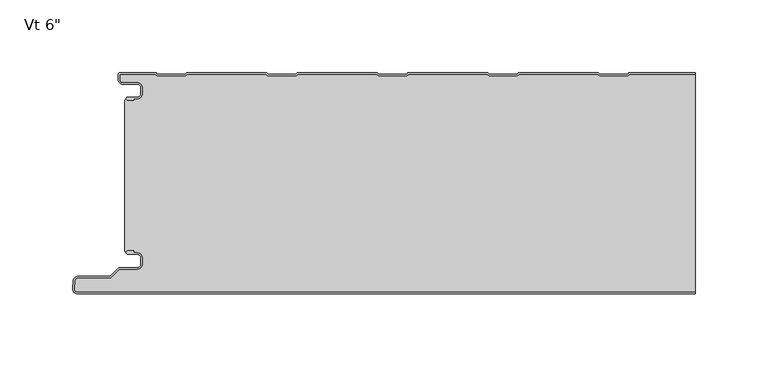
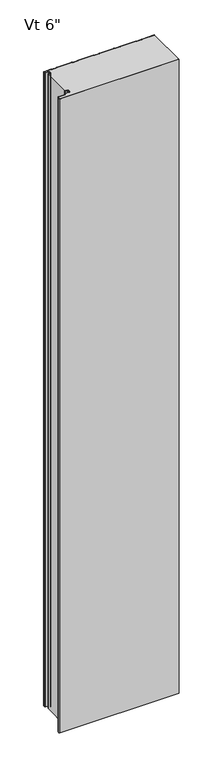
"""IFC4 building model written with IfcOpenShell, lengths in millimetres: plate geometry."""

from ifc_helpers import new_model, si_unit, point, frame, frame_2d, origin, origin_with_axes, place, context, project, spatial, polyline, circle_curve, trimmed, segment, composite_curve, outline, extrude, source, transform, mapped, element, save
from ifc_brep_helpers import plane_surface, cylinder_surface, revolved_surface, advanced_brep


def plate_fd4a2de5(model_context):
    return source(origin(), model_context, "Body", "SolidModel", [
        advanced_brep(
        [(-194.5686912, -17.001516, 2400.0), (-195.5686885, -18.0015192, 2400.0), (-194.5686912, -19.0015105, 2400.0), (-190.5684875, -19.0015105, 2400.0), (-190.5684876, -18.001516, 2400.0), (-187.8762777, -18.001516, 2400.0), (-184.5762821, -14.7015203, 2400.0), (-184.5762821, -10.3015291, 2400.0), (-187.8762776, -7.0015336, 2400.0), (-198.2962565, -7.0015336, 2400.0), (-200.0662507, -5.2315394, 2400.0), (-200.0662507, -0.9999917, 2400.0), (-175.5659741, -0.9999917, 2400.0), (-174.1803314, -2.2002307, 2400.0), (-154.8051651, -2.2002307, 2400.0), (-153.4195322, -1.0, 2400.0), (-99.3661168, -0.9999999, 2400.0), (-97.9804838, -2.2002306, 2400.0), (-78.6053175, -2.2002306, 2400.0), (-77.2196846, -0.9999999, 2400.0), (-23.1662692, -0.9999998, 2400.0), (-21.7806362, -2.2002305, 2400.0), (-2.4054699, -2.2002304, 2400.0), (-1.019837, -0.9999997, 2400.0), (53.0335784, -0.9999996, 2400.0), (54.4192114, -2.2002303, 2400.0), (73.7943777, -2.2002303, 2400.0), (75.1800106, -0.9999996, 2400.0), (129.233426, -0.9999995, 2400.0), (130.619059, -2.2002302, 2400.0), (149.9942253, -2.2002302, 2400.0), (151.3798582, -0.9999995, 2400.0), (196.5999996, -0.9999994, 2400.0), (196.5999996, 6e-07, 2400.0), (151.5290094, 5e-07, 2400.0), (150.6123925, -0.341788, 2400.0), (149.6213448, -1.2002302, 2400.0), (130.9919394, -1.2002302, 2400.0), (130.0008917, -0.341788, 2400.0), (129.0842749, 5e-07, 2400.0), (75.3291618, 4e-07, 2400.0), (74.4125449, -0.3417881, 2400.0), (73.4214972, -1.2002303, 2400.0), (54.7920918, -1.2002303, 2400.0), (53.8010441, -0.3417881, 2400.0), (52.8844273, 4e-07, 2400.0), (-0.8706858, 3e-07, 2400.0), (-1.7873027, -0.3417882, 2400.0), (-2.7783504, -1.2002304, 2400.0), (-21.4077558, -1.2002305, 2400.0), (-22.3988035, -0.3417883, 2400.0), (-23.3154203, 2e-07, 2400.0), (-77.0705334, 1e-07, 2400.0), (-77.9871503, -0.3417884, 2400.0), (-78.978198, -1.2002306, 2400.0), (-97.6076034, -1.2002306, 2400.0), (-98.5986511, -0.3417884, 2400.0), (-99.5152679, 1e-07, 2400.0), (-153.270381, 0.0, 2400.0), (-154.1869979, -0.3417885, 2400.0), (-155.1780456, -1.2002307, 2400.0), (-173.807451, -1.2002307, 2400.0), (-174.7984987, -0.3417885, 2400.0), (-175.7152069, 0.0, 2400.0), (-199.6662545, 8.3e-06, 2400.0), (-201.0662507, -1.3999879, 2400.0), (-201.0662507, -5.2315394, 2400.0), (-198.2962565, -8.0015336, 2400.0), (-187.8762776, -8.0015336, 2400.0), (-185.5762821, -10.3015291, 2400.0), (-185.5762821, -14.7015203, 2400.0), (-187.8762777, -17.001516, 2400.0), (-194.5686912, -17.001516, 0.0), (-187.8762777, -17.001516, 0.0), (-185.5762821, -14.7015203, 0.0), (-185.5762821, -10.3015291, 0.0), (-187.8762776, -8.0015336, 0.0), (-198.2962565, -8.0015336, 0.0), (-201.0662507, -5.2315394, 0.0), (-201.0662507, -1.3999879, 0.0), (-199.6662545, 8.3e-06, 0.0), (-175.7151155, 8.3e-06, 0.0), (-174.7984987, -0.3417885, 0.0), (-173.807451, -1.2002307, 0.0), (-155.1780456, -1.2002307, 0.0), (-154.1869979, -0.3417885, 0.0), (-153.270381, 0.0, 0.0), (-99.5152679, 1e-07, 0.0), (-98.5986511, -0.3417884, 0.0), (-97.6076034, -1.2002306, 0.0), (-78.978198, -1.2002306, 0.0), (-77.9871503, -0.3417884, 0.0), (-77.0705334, 1e-07, 0.0), (-23.3154203, 2e-07, 0.0), (-22.3988035, -0.3417883, 0.0), (-21.4077558, -1.2002305, 0.0), (-2.7783504, -1.2002304, 0.0), (-1.7873027, -0.3417882, 0.0), (-0.8706858, 3e-07, 0.0), (52.8844273, 4e-07, 0.0), (53.8010441, -0.3417881, 0.0), (54.7920918, -1.2002303, 0.0), (73.4214972, -1.2002303, 0.0), (74.4125449, -0.3417881, 0.0), (75.3291618, 4e-07, 0.0), (129.0842749, 5e-07, 0.0), (130.0008917, -0.341788, 0.0), (130.9919394, -1.2002302, 0.0), (149.6213448, -1.2002302, 0.0), (150.6123925, -0.341788, 0.0), (151.5290094, 5e-07, 0.0), (196.5999996, 6e-07, 0.0), (196.5999996, -0.9999994, 0.0), (151.3798582, -0.9999995, 0.0), (149.9942253, -2.2002302, 0.0), (130.619059, -2.2002302, 0.0), (129.233426, -0.9999995, 0.0), (75.1800106, -0.9999996, 0.0), (73.7943777, -2.2002303, 0.0), (54.4192114, -2.2002303, 0.0), (53.0335784, -0.9999996, 0.0), (-1.019837, -0.9999997, 0.0), (-2.4054699, -2.2002304, 0.0), (-21.7806362, -2.2002305, 0.0), (-23.1662692, -0.9999998, 0.0), (-77.2196846, -0.9999999, 0.0), (-78.6053175, -2.2002306, 0.0), (-97.9804838, -2.2002306, 0.0), (-99.3661168, -0.9999999, 0.0), (-153.4195322, -1.0, 0.0), (-154.8051651, -2.2002307, 0.0), (-174.1803314, -2.2002307, 0.0), (-175.5659741, -0.9999917, 0.0), (-200.0662507, -0.9999917, 0.0), (-200.0662507, -5.2315394, 0.0), (-198.2962565, -7.0015336, 0.0), (-187.8762776, -7.0015336, 0.0), (-184.5762821, -10.3015291, 0.0), (-184.5762821, -14.7015203, 0.0), (-187.8762777, -18.001516, 0.0), (-190.5684876, -18.001516, 0.0), (-190.5684875, -19.0015105, 0.0), (-194.5686912, -19.0015105, 0.0), (-195.5686884, -18.0015193, 0.0)],
        [
            (0, 1, circle_curve(frame((-194.5686912, -18.0015133, 2400.0), z_axis=(0.0, 0.0, 1.0), x_axis=(1.0, 1.7886125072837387e-09, 0.0)), 0.9999973)),
            (1, 2, circle_curve(frame((-194.5686912, -18.0015133, 2400.0), z_axis=(0.0, 0.0, 1.0), x_axis=(1.0, 1.7886125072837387e-09, 0.0)), 0.9999972)),
            (2, 3),
            (3, 4),
            (4, 5),
            (5, 6, circle_curve(frame((-187.8762778, -14.7015203, 2400.0), z_axis=(0.0, 0.0, 1.0), x_axis=(1.0, 1.7886125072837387e-09, 0.0)), 3.2999957)),
            (6, 7),
            (7, 8, circle_curve(frame((-187.8762776, -10.3015291, 2400.0), z_axis=(0.0, 0.0, 1.0), x_axis=(1.0, 1.7886125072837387e-09, 0.0)), 3.2999955)),
            (8, 9),
            (9, 10, circle_curve(frame((-198.2962565, -5.2315394, 2400.0), z_axis=(0.0, 0.0, -1.0), x_axis=(1.0, 1.7886125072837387e-09, 0.0)), 1.7699942)),
            (10, 11),
            (11, 12),
            (12, 13),
            (13, 14),
            (14, 15),
            (15, 16),
            (16, 17),
            (17, 18),
            (18, 19),
            (19, 20),
            (20, 21),
            (21, 22),
            (22, 23),
            (23, 24),
            (24, 25),
            (25, 26),
            (26, 27),
            (27, 28),
            (28, 29),
            (29, 30),
            (30, 31),
            (31, 32),
            (32, 33),
            (33, 34),
            (34, 35, circle_curve(frame((151.5290094, -1.3999967, 2400.0), z_axis=(0.0, 0.0, 1.0), x_axis=(1.0, 1.7886125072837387e-09, 0.0)), 1.3999972)),
            (35, 36),
            (36, 37),
            (37, 38),
            (38, 39, circle_curve(frame((129.0842749, -1.3999967, 2400.0), z_axis=(0.0, 0.0, 1.0), x_axis=(1.0, 1.7886125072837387e-09, 0.0)), 1.3999972)),
            (39, 40),
            (40, 41, circle_curve(frame((75.3291618, -1.3999968, 2400.0), z_axis=(0.0, 0.0, 1.0), x_axis=(1.0, 1.7886125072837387e-09, 0.0)), 1.3999972)),
            (41, 42),
            (42, 43),
            (43, 44),
            (44, 45, circle_curve(frame((52.8844273, -1.3999968, 2400.0), z_axis=(0.0, 0.0, 1.0), x_axis=(1.0, 1.7886125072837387e-09, 0.0)), 1.3999972)),
            (45, 46),
            (46, 47, circle_curve(frame((-0.8706858, -1.3999969, 2400.0), z_axis=(0.0, 0.0, 1.0), x_axis=(1.0, 1.7886125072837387e-09, 0.0)), 1.3999972)),
            (47, 48),
            (48, 49),
            (49, 50),
            (50, 51, circle_curve(frame((-23.3154203, -1.399997, 2400.0), z_axis=(0.0, 0.0, 1.0), x_axis=(1.0, 1.7886125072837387e-09, 0.0)), 1.3999972)),
            (51, 52),
            (52, 53, circle_curve(frame((-77.0705334, -1.3999971, 2400.0), z_axis=(0.0, 0.0, 1.0), x_axis=(1.0, 1.7886125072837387e-09, 0.0)), 1.3999972)),
            (53, 54),
            (54, 55),
            (55, 56),
            (56, 57, circle_curve(frame((-99.5152679, -1.3999971, 2400.0), z_axis=(0.0, 0.0, 1.0), x_axis=(1.0, 1.7886125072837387e-09, 0.0)), 1.3999972)),
            (57, 58),
            (58, 59, circle_curve(frame((-153.270381, -1.3999972, 2400.0), z_axis=(0.0, 0.0, 1.0), x_axis=(1.0, 1.7886125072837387e-09, 0.0)), 1.3999972)),
            (59, 60),
            (60, 61),
            (61, 62),
            (62, 63, circle_curve(frame((-175.7151155, -1.3999972, 2400.0), z_axis=(0.0, 0.0, 1.0), x_axis=(1.0, 1.7886125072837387e-09, 0.0)), 1.3999972)),
            (63, 64),
            (64, 65, circle_curve(frame((-199.6662545, -1.3999879, 2400.0), z_axis=(0.0, 0.0, 1.0), x_axis=(1.0, 1.7886125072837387e-09, 0.0)), 1.3999962)),
            (65, 66),
            (66, 67, circle_curve(frame((-198.2962565, -5.2315394, 2400.0), z_axis=(0.0, 0.0, 1.0), x_axis=(1.0, 1.7886125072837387e-09, 0.0)), 2.7699942)),
            (67, 68),
            (68, 69, circle_curve(frame((-187.8762776, -10.3015291, 2400.0), z_axis=(0.0, 0.0, -1.0), x_axis=(1.0, 1.7886125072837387e-09, 0.0)), 2.2999955)),
            (69, 70),
            (70, 71, circle_curve(frame((-187.8762778, -14.7015203, 2400.0), z_axis=(0.0, 0.0, -1.0), x_axis=(1.0, 1.7886125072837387e-09, 0.0)), 2.2999957)),
            (71, 0),
            (72, 73),
            (73, 74, circle_curve(frame((-187.8762778, -14.7015203, 0.0), z_axis=(0.0, 0.0, 1.0), x_axis=(1.0, 1.7886125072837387e-09, 0.0)), 2.2999957)),
            (74, 75),
            (75, 76, circle_curve(frame((-187.8762776, -10.3015291, 0.0), z_axis=(0.0, 0.0, 1.0), x_axis=(1.0, 1.7886125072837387e-09, 0.0)), 2.2999955)),
            (76, 77),
            (77, 78, circle_curve(frame((-198.2962565, -5.2315394, 0.0), z_axis=(0.0, 0.0, -1.0), x_axis=(1.0, 1.7886125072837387e-09, 0.0)), 2.7699942)),
            (78, 79),
            (79, 80, circle_curve(frame((-199.6662545, -1.3999879, 0.0), z_axis=(0.0, 0.0, -1.0), x_axis=(1.0, 1.7886125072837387e-09, 0.0)), 1.3999962)),
            (80, 81),
            (81, 82, circle_curve(frame((-175.7151155, -1.3999972, 0.0), z_axis=(0.0, 0.0, -1.0), x_axis=(1.0, 1.7886125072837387e-09, 0.0)), 1.3999972)),
            (82, 83),
            (83, 84),
            (84, 85),
            (85, 86, circle_curve(frame((-153.270381, -1.3999972, 0.0), z_axis=(0.0, 0.0, -1.0), x_axis=(1.0, 1.7886125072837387e-09, 0.0)), 1.3999972)),
            (86, 87),
            (87, 88, circle_curve(frame((-99.5152679, -1.3999971, 0.0), z_axis=(0.0, 0.0, -1.0), x_axis=(1.0, 1.7886125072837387e-09, 0.0)), 1.3999972)),
            (88, 89),
            (89, 90),
            (90, 91),
            (91, 92, circle_curve(frame((-77.0705334, -1.3999971, 0.0), z_axis=(0.0, 0.0, -1.0), x_axis=(1.0, 1.7886125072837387e-09, 0.0)), 1.3999972)),
            (92, 93),
            (93, 94, circle_curve(frame((-23.3154203, -1.399997, 0.0), z_axis=(0.0, 0.0, -1.0), x_axis=(1.0, 1.7886125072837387e-09, 0.0)), 1.3999972)),
            (94, 95),
            (95, 96),
            (96, 97),
            (97, 98, circle_curve(frame((-0.8706858, -1.3999969, 0.0), z_axis=(0.0, 0.0, -1.0), x_axis=(1.0, 1.7886125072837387e-09, 0.0)), 1.3999972)),
            (98, 99),
            (99, 100, circle_curve(frame((52.8844273, -1.3999968, 0.0), z_axis=(0.0, 0.0, -1.0), x_axis=(1.0, 1.7886125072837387e-09, 0.0)), 1.3999972)),
            (100, 101),
            (101, 102),
            (102, 103),
            (103, 104, circle_curve(frame((75.3291618, -1.3999968, 0.0), z_axis=(0.0, 0.0, -1.0), x_axis=(1.0, 1.7886125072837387e-09, 0.0)), 1.3999972)),
            (104, 105),
            (105, 106, circle_curve(frame((129.0842749, -1.3999967, 0.0), z_axis=(0.0, 0.0, -1.0), x_axis=(1.0, 1.7886125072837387e-09, 0.0)), 1.3999972)),
            (106, 107),
            (107, 108),
            (108, 109),
            (109, 110, circle_curve(frame((151.5290094, -1.3999967, 0.0), z_axis=(0.0, 0.0, -1.0), x_axis=(1.0, 1.7886125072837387e-09, 0.0)), 1.3999972)),
            (110, 111),
            (111, 112),
            (112, 113),
            (113, 114),
            (114, 115),
            (115, 116),
            (116, 117),
            (117, 118),
            (118, 119),
            (119, 120),
            (120, 121),
            (121, 122),
            (122, 123),
            (123, 124),
            (124, 125),
            (125, 126),
            (126, 127),
            (127, 128),
            (128, 129),
            (129, 130),
            (130, 131),
            (131, 132),
            (132, 133),
            (133, 134),
            (134, 135, circle_curve(frame((-198.2962565, -5.2315394, 0.0), z_axis=(0.0, 0.0, 1.0), x_axis=(1.0, 1.7886125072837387e-09, 0.0)), 1.7699942)),
            (135, 136),
            (136, 137, circle_curve(frame((-187.8762776, -10.3015291, 0.0), z_axis=(0.0, 0.0, -1.0), x_axis=(1.0, 1.7886125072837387e-09, 0.0)), 3.2999955)),
            (137, 138),
            (138, 139, circle_curve(frame((-187.8762778, -14.7015203, 0.0), z_axis=(0.0, 0.0, -1.0), x_axis=(1.0, 1.7886125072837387e-09, 0.0)), 3.2999957)),
            (139, 140),
            (140, 141),
            (141, 142),
            (142, 143, circle_curve(frame((-194.5686912, -18.0015133, 0.0), z_axis=(0.0, 0.0, -1.0), x_axis=(1.0, 1.7886125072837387e-09, 0.0)), 0.9999972)),
            (143, 72, circle_curve(frame((-194.5686912, -18.0015133, 0.0), z_axis=(0.0, 0.0, -1.0), x_axis=(1.0, 1.7886125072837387e-09, 0.0)), 0.9999973)),
            (32, 112),
            (111, 33),
            (71, 73),
            (72, 0),
            (70, 74),
            (69, 75),
            (68, 76),
            (67, 77),
            (66, 78),
            (65, 79),
            (64, 80),
            (63, 81),
            (62, 82),
            (61, 83),
            (60, 84),
            (59, 85),
            (58, 86),
            (57, 87),
            (56, 88),
            (55, 89),
            (54, 90),
            (53, 91),
            (52, 92),
            (51, 93),
            (50, 94),
            (49, 95),
            (48, 96),
            (47, 97),
            (46, 98),
            (45, 99),
            (44, 100),
            (43, 101),
            (42, 102),
            (41, 103),
            (40, 104),
            (39, 105),
            (38, 106),
            (37, 107),
            (36, 108),
            (35, 109),
            (34, 110),
            (31, 113),
            (30, 114),
            (29, 115),
            (28, 116),
            (27, 117),
            (26, 118),
            (25, 119),
            (24, 120),
            (23, 121),
            (22, 122),
            (21, 123),
            (20, 124),
            (19, 125),
            (18, 126),
            (17, 127),
            (16, 128),
            (15, 129),
            (14, 130),
            (13, 131),
            (12, 132),
            (11, 133),
            (10, 134),
            (9, 135),
            (8, 136),
            (7, 137),
            (6, 138),
            (5, 139),
            (4, 140),
            (3, 141),
            (2, 142),
            (1, 143),
        ],
        [
            plane_surface(frame((336.7999999, 9e-07, 2400.0), z_axis=(0.0, 0.0, 1.0), x_axis=(-1.7886125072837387e-09, 1.0, 0.0))),
            plane_surface(frame((336.7999999, 9e-07, 0.0), z_axis=(0.0, 0.0, -1.0), x_axis=(-1.7886125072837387e-09, 1.0, 0.0))),
            plane_surface(frame((196.5999999, -162.3999994, 2400.0), z_axis=(1.0, 1.7886125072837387e-09, 0.0), x_axis=(0.0, 0.0, -1.0))),
            plane_surface(frame((-194.5686912, -17.001516, 2400.0), z_axis=(-1.7886125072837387e-09, 1.0, 0.0), x_axis=(0.0, 0.0, -1.0))),
            revolved_surface(polyline([(-185.5762821, -14.7015202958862, 0.0), (-185.5762821, -14.7015202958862, 2400.0)]), (-187.8762778, -14.7015203, 2400.0), (0.0, 0.0, -1.0)),
            plane_surface(frame((-185.5762821, -14.7015203, 2400.0), z_axis=(-1.0, -1.7886125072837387e-09, 0.0), x_axis=(0.0, 0.0, -1.0))),
            revolved_surface(polyline([(-185.57628210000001, -10.301529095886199, 0.0), (-185.57628210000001, -10.301529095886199, 2400.0)]), (-187.8762776, -10.3015291, 2400.0), (0.0, 0.0, -1.0)),
            plane_surface(frame((-187.8762776, -8.0015336, 2400.0), z_axis=(1.7886125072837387e-09, -1.0, 0.0), x_axis=(0.0, 0.0, -1.0))),
            cylinder_surface(frame((-198.2962565, -5.2315394, 2400.0), z_axis=(0.0, 0.0, 1.0), x_axis=(1.0, 1.7886125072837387e-09, 0.0)), 2.7699942),
            plane_surface(frame((-201.0662507, -5.2315394, 2400.0), z_axis=(-1.0, -1.7886125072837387e-09, 0.0), x_axis=(0.0, 0.0, -1.0))),
            cylinder_surface(frame((-199.6662545, -1.3999879, 2400.0), z_axis=(0.0, 0.0, 1.0), x_axis=(1.0, 1.7886125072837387e-09, 0.0)), 1.3999962),
            plane_surface(frame((-199.6662545, 8.3e-06, 2400.0), z_axis=(-1.7886125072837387e-09, 1.0, 0.0), x_axis=(0.0, 0.0, -1.0))),
            cylinder_surface(frame((-175.7151155, -1.3999972, 2400.0), z_axis=(0.0, 0.0, 1.0), x_axis=(1.0, 1.7886125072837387e-09, 0.0)), 1.3999972),
            plane_surface(frame((-174.7984987, -0.3417885, 2400.0), z_axis=(0.6547276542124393, 0.755864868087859, 0.0), x_axis=(0.0, 0.0, -1.0))),
            plane_surface(frame((-164.4927483, -1.2002307, 2400.0), z_axis=(-1.7886125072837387e-09, 1.0, 0.0), x_axis=(0.0, 0.0, -1.0))),
            plane_surface(frame((-155.1780456, -1.2002307, 2400.0), z_axis=(-0.6547276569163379, 0.755864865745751, 0.0), x_axis=(0.0, 0.0, -1.0))),
            cylinder_surface(frame((-153.270381, -1.3999972, 2400.0), z_axis=(0.0, 0.0, 1.0), x_axis=(1.0, 1.7886125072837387e-09, 0.0)), 1.3999972),
            plane_surface(frame((-153.270381, 0.0, 2400.0), z_axis=(-1.7886074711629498e-09, 1.0, 0.0), x_axis=(0.0, 0.0, -1.0))),
            cylinder_surface(frame((-99.5152679, -1.3999971, 2400.0), z_axis=(0.0, 0.0, 1.0), x_axis=(1.0, 1.7886125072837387e-09, 0.0)), 1.3999972),
            plane_surface(frame((-98.5986511, -0.3417884, 2400.0), z_axis=(0.6547276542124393, 0.755864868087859, 0.0), x_axis=(0.0, 0.0, -1.0))),
            plane_surface(frame((-88.2929007, -1.2002306, 2400.0), z_axis=(-1.7886125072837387e-09, 1.0, 0.0), x_axis=(0.0, 0.0, -1.0))),
            plane_surface(frame((-78.978198, -1.2002306, 2400.0), z_axis=(-0.6547276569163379, 0.755864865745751, 0.0), x_axis=(0.0, 0.0, -1.0))),
            cylinder_surface(frame((-77.0705334, -1.3999971, 2400.0), z_axis=(0.0, 0.0, 1.0), x_axis=(1.0, 1.7886125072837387e-09, 0.0)), 1.3999972),
            plane_surface(frame((-77.0705334, 1e-07, 2400.0), z_axis=(-1.7886074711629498e-09, 1.0, 0.0), x_axis=(0.0, 0.0, -1.0))),
            cylinder_surface(frame((-23.3154203, -1.399997, 2400.0), z_axis=(0.0, 0.0, 1.0), x_axis=(1.0, 1.7886125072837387e-09, 0.0)), 1.3999972),
            plane_surface(frame((-22.3988035, -0.3417883, 2400.0), z_axis=(0.6547276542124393, 0.755864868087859, 0.0), x_axis=(0.0, 0.0, -1.0))),
            plane_surface(frame((-12.0930531, -1.2002305, 2400.0), z_axis=(-1.7886125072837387e-09, 1.0, 0.0), x_axis=(0.0, 0.0, -1.0))),
            plane_surface(frame((-2.7783504, -1.2002304, 2400.0), z_axis=(-0.6547276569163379, 0.755864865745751, 0.0), x_axis=(0.0, 0.0, -1.0))),
            cylinder_surface(frame((-0.8706858, -1.3999969, 2400.0), z_axis=(0.0, 0.0, 1.0), x_axis=(1.0, 1.7886125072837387e-09, 0.0)), 1.3999972),
            plane_surface(frame((-0.8706858, 3e-07, 2400.0), z_axis=(-1.7886074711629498e-09, 1.0, 0.0), x_axis=(0.0, 0.0, -1.0))),
            cylinder_surface(frame((52.8844273, -1.3999968, 2400.0), z_axis=(0.0, 0.0, 1.0), x_axis=(1.0, 1.7886125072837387e-09, 0.0)), 1.3999972),
            plane_surface(frame((53.8010441, -0.3417881, 2400.0), z_axis=(0.6547276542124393, 0.755864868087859, 0.0), x_axis=(0.0, 0.0, -1.0))),
            plane_surface(frame((64.1067945, -1.2002303, 2400.0), z_axis=(-1.7886125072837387e-09, 1.0, 0.0), x_axis=(0.0, 0.0, -1.0))),
            plane_surface(frame((73.4214972, -1.2002303, 2400.0), z_axis=(-0.6547276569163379, 0.755864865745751, 0.0), x_axis=(0.0, 0.0, -1.0))),
            cylinder_surface(frame((75.3291618, -1.3999968, 2400.0), z_axis=(0.0, 0.0, 1.0), x_axis=(1.0, 1.7886125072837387e-09, 0.0)), 1.3999972),
            plane_surface(frame((75.3291618, 4e-07, 2400.0), z_axis=(-1.7886074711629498e-09, 1.0, 0.0), x_axis=(0.0, 0.0, -1.0))),
            cylinder_surface(frame((129.0842749, -1.3999967, 2400.0), z_axis=(0.0, 0.0, 1.0), x_axis=(1.0, 1.7886125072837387e-09, 0.0)), 1.3999972),
            plane_surface(frame((130.0008917, -0.341788, 2400.0), z_axis=(0.6547276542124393, 0.755864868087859, 0.0), x_axis=(0.0, 0.0, -1.0))),
            plane_surface(frame((140.3066421, -1.2002302, 2400.0), z_axis=(-1.7886125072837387e-09, 1.0, 0.0), x_axis=(0.0, 0.0, -1.0))),
            plane_surface(frame((149.6213448, -1.2002302, 2400.0), z_axis=(-0.6547276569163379, 0.755864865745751, 0.0), x_axis=(0.0, 0.0, -1.0))),
            cylinder_surface(frame((151.5290094, -1.3999967, 2400.0), z_axis=(0.0, 0.0, 1.0), x_axis=(1.0, 1.7886125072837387e-09, 0.0)), 1.3999972),
            plane_surface(frame((151.5290094, 5e-07, 2400.0), z_axis=(-1.7886074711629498e-09, 1.0, 0.0), x_axis=(0.0, 0.0, -1.0))),
            plane_surface(frame((205.4332736, -0.9999994, 2400.0), z_axis=(1.7886074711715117e-09, -1.0, 0.0), x_axis=(0.0, 0.0, -1.0))),
            plane_surface(frame((151.3798582, -0.9999995, 2400.0), z_axis=(0.6547276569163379, -0.755864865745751, 0.0), x_axis=(0.0, 0.0, -1.0))),
            plane_surface(frame((149.9942253, -2.2002302, 2400.0), z_axis=(1.7886125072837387e-09, -1.0, 0.0), x_axis=(0.0, 0.0, -1.0))),
            plane_surface(frame((130.619059, -2.2002302, 2400.0), z_axis=(-0.6547276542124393, -0.755864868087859, 0.0), x_axis=(0.0, 0.0, -1.0))),
            plane_surface(frame((129.233426, -0.9999995, 2400.0), z_axis=(1.7886074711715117e-09, -1.0, 0.0), x_axis=(0.0, 0.0, -1.0))),
            plane_surface(frame((75.1800106, -0.9999996, 2400.0), z_axis=(0.6547276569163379, -0.755864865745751, 0.0), x_axis=(0.0, 0.0, -1.0))),
            plane_surface(frame((73.7943777, -2.2002303, 2400.0), z_axis=(1.7886125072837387e-09, -1.0, 0.0), x_axis=(0.0, 0.0, -1.0))),
            plane_surface(frame((54.4192114, -2.2002303, 2400.0), z_axis=(-0.6547276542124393, -0.755864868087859, 0.0), x_axis=(0.0, 0.0, -1.0))),
            plane_surface(frame((53.0335784, -0.9999996, 2400.0), z_axis=(1.7886074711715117e-09, -1.0, 0.0), x_axis=(0.0, 0.0, -1.0))),
            plane_surface(frame((-1.019837, -0.9999997, 2400.0), z_axis=(0.6547276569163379, -0.755864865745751, 0.0), x_axis=(0.0, 0.0, -1.0))),
            plane_surface(frame((-2.4054699, -2.2002304, 2400.0), z_axis=(1.7886125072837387e-09, -1.0, 0.0), x_axis=(0.0, 0.0, -1.0))),
            plane_surface(frame((-21.7806362, -2.2002305, 2400.0), z_axis=(-0.6547276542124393, -0.755864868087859, 0.0), x_axis=(0.0, 0.0, -1.0))),
            plane_surface(frame((-23.1662692, -0.9999998, 2400.0), z_axis=(1.7886074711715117e-09, -1.0, 0.0), x_axis=(0.0, 0.0, -1.0))),
            plane_surface(frame((-77.2196846, -0.9999999, 2400.0), z_axis=(0.6547276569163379, -0.755864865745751, 0.0), x_axis=(0.0, 0.0, -1.0))),
            plane_surface(frame((-78.6053175, -2.2002306, 2400.0), z_axis=(1.7886125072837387e-09, -1.0, 0.0), x_axis=(0.0, 0.0, -1.0))),
            plane_surface(frame((-97.9804838, -2.2002306, 2400.0), z_axis=(-0.6547276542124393, -0.755864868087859, 0.0), x_axis=(0.0, 0.0, -1.0))),
            plane_surface(frame((-99.3661168, -0.9999999, 2400.0), z_axis=(1.7886074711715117e-09, -1.0, 0.0), x_axis=(0.0, 0.0, -1.0))),
            plane_surface(frame((-153.4195322, -1.0, 2400.0), z_axis=(0.6547276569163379, -0.755864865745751, 0.0), x_axis=(0.0, 0.0, -1.0))),
            plane_surface(frame((-154.8051651, -2.2002307, 2400.0), z_axis=(1.7886125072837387e-09, -1.0, 0.0), x_axis=(0.0, 0.0, -1.0))),
            plane_surface(frame((-174.1803314, -2.2002307, 2400.0), z_axis=(-0.6547276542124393, -0.755864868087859, 0.0), x_axis=(0.0, 0.0, -1.0))),
            plane_surface(frame((-175.5659741, -0.9999917, 2400.0), z_axis=(1.7886125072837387e-09, -1.0, 0.0), x_axis=(0.0, 0.0, -1.0))),
            plane_surface(frame((-200.0662507, -0.9999917, 2400.0), z_axis=(1.0, 1.7886125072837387e-09, 0.0), x_axis=(0.0, 0.0, -1.0))),
            revolved_surface(polyline([(-196.52626229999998, -5.231539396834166, 0.0), (-196.52626229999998, -5.231539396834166, 2400.0)]), (-198.2962565, -5.2315394, 2400.0), (0.0, 0.0, -1.0)),
            plane_surface(frame((-198.2962565, -7.0015336, 2400.0), z_axis=(-1.7886125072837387e-09, 1.0, 0.0), x_axis=(0.0, 0.0, -1.0))),
            cylinder_surface(frame((-187.8762776, -10.3015291, 2400.0), z_axis=(0.0, 0.0, 1.0), x_axis=(1.0, 1.7886125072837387e-09, 0.0)), 3.2999955),
            plane_surface(frame((-184.5762821, -10.3015291, 2400.0), z_axis=(1.0, 1.7886125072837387e-09, 0.0), x_axis=(0.0, 0.0, -1.0))),
            cylinder_surface(frame((-187.8762778, -14.7015203, 2400.0), z_axis=(0.0, 0.0, 1.0), x_axis=(1.0, 1.7886125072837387e-09, 0.0)), 3.2999957),
            plane_surface(frame((-187.8762777, -18.001516, 2400.0), z_axis=(1.7886125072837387e-09, -1.0, 0.0), x_axis=(0.0, 0.0, -1.0))),
            plane_surface(frame((-190.5684876, -18.001516, 2400.0), z_axis=(1.0, 1.7886125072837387e-09, 0.0), x_axis=(0.0, 0.0, -1.0))),
            plane_surface(frame((-190.5684875, -19.0015105, 2400.0), z_axis=(1.7886125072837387e-09, -1.0, 0.0), x_axis=(0.0, 0.0, -1.0))),
            cylinder_surface(frame((-194.5686912, -18.0015133, 2400.0), z_axis=(0.0, 0.0, 1.0), x_axis=(1.0, 1.7886125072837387e-09, 0.0)), 0.9999972),
            cylinder_surface(frame((-194.5686912, -18.0015133, 2400.0), z_axis=(0.0, 0.0, 1.0), x_axis=(1.0, 1.7886125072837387e-09, 0.0)), 0.9999973),
        ],
        [
            (0, [[1, 2, 3, 4, 5, 6, 7, 8, 9, 10, 11, 12, 13, 14, 15, 16, 17, 18, 19, 20, 21, 22, 23, 24, 25, 26, 27, 28, 29, 30, 31, 32, 33, 34, 35, 36, 37, 38, 39, 40, 41, 42, 43, 44, 45, 46, 47, 48, 49, 50, 51, 52, 53, 54, 55, 56, 57, 58, 59, 60, 61, 62, 63, 64, 65, 66, 67, 68, 69, 70, 71, 72]]),
            (1, [[73, 74, 75, 76, 77, 78, 79, 80, 81, 82, 83, 84, 85, 86, 87, 88, 89, 90, 91, 92, 93, 94, 95, 96, 97, 98, 99, 100, 101, 102, 103, 104, 105, 106, 107, 108, 109, 110, 111, 112, 113, 114, 115, 116, 117, 118, 119, 120, 121, 122, 123, 124, 125, 126, 127, 128, 129, 130, 131, 132, 133, 134, 135, 136, 137, 138, 139, 140, 141, 142, 143, 144]]),
            (2, [[145, -112, 146, -33]]),
            (3, [[147, -73, 148, -72]]),
            (4, [[149, -74, -147, -71]]),
            (5, [[150, -75, -149, -70]]),
            (6, [[151, -76, -150, -69]]),
            (7, [[152, -77, -151, -68]]),
            (8, [[153, -78, -152, -67]]),
            (9, [[154, -79, -153, -66]]),
            (10, [[155, -80, -154, -65]]),
            (11, [[156, -81, -155, -64]]),
            (12, [[157, -82, -156, -63]]),
            (13, [[158, -83, -157, -62]]),
            (14, [[159, -84, -158, -61]]),
            (15, [[160, -85, -159, -60]]),
            (16, [[161, -86, -160, -59]]),
            (17, [[162, -87, -161, -58]]),
            (18, [[163, -88, -162, -57]]),
            (19, [[164, -89, -163, -56]]),
            (20, [[165, -90, -164, -55]]),
            (21, [[166, -91, -165, -54]]),
            (22, [[167, -92, -166, -53]]),
            (23, [[168, -93, -167, -52]]),
            (24, [[169, -94, -168, -51]]),
            (25, [[170, -95, -169, -50]]),
            (26, [[171, -96, -170, -49]]),
            (27, [[172, -97, -171, -48]]),
            (28, [[173, -98, -172, -47]]),
            (29, [[174, -99, -173, -46]]),
            (30, [[175, -100, -174, -45]]),
            (31, [[176, -101, -175, -44]]),
            (32, [[177, -102, -176, -43]]),
            (33, [[178, -103, -177, -42]]),
            (34, [[179, -104, -178, -41]]),
            (35, [[180, -105, -179, -40]]),
            (36, [[181, -106, -180, -39]]),
            (37, [[182, -107, -181, -38]]),
            (38, [[183, -108, -182, -37]]),
            (39, [[184, -109, -183, -36]]),
            (40, [[185, -110, -184, -35]]),
            (41, [[-34, -146, -111, -185]]),
            (42, [[-113, -145, -32, 186]]),
            (43, [[187, -114, -186, -31]]),
            (44, [[188, -115, -187, -30]]),
            (45, [[189, -116, -188, -29]]),
            (46, [[190, -117, -189, -28]]),
            (47, [[191, -118, -190, -27]]),
            (48, [[192, -119, -191, -26]]),
            (49, [[193, -120, -192, -25]]),
            (50, [[194, -121, -193, -24]]),
            (51, [[195, -122, -194, -23]]),
            (52, [[196, -123, -195, -22]]),
            (53, [[197, -124, -196, -21]]),
            (54, [[198, -125, -197, -20]]),
            (55, [[199, -126, -198, -19]]),
            (56, [[200, -127, -199, -18]]),
            (57, [[201, -128, -200, -17]]),
            (58, [[202, -129, -201, -16]]),
            (59, [[203, -130, -202, -15]]),
            (60, [[204, -131, -203, -14]]),
            (61, [[205, -132, -204, -13]]),
            (62, [[206, -133, -205, -12]]),
            (63, [[207, -134, -206, -11]]),
            (64, [[208, -135, -207, -10]]),
            (65, [[209, -136, -208, -9]]),
            (66, [[210, -137, -209, -8]]),
            (67, [[211, -138, -210, -7]]),
            (68, [[212, -139, -211, -6]]),
            (69, [[213, -140, -212, -5]]),
            (70, [[214, -141, -213, -4]]),
            (71, [[215, -142, -214, -3]]),
            (72, [[216, -143, -215, -2]]),
            (73, [[-148, -144, -216, -1]]),
        ],
    ),
        extrude(outline(composite_curve([segment(polyline([(-232.6087618, -148.5184904), (-232.1690673, -143.4944438)]), True, "CONTINUOUS"), segment(trimmed(circle_curve(frame_2d((-228.519839, -144.1052449)), 3.6999926), [point((-232.1690673, -143.4944438))], [point((-228.519839, -140.4052523))], False, "CARTESIAN"), True, "CONTINUOUS"), segment(polyline([(-228.519839, -140.4052523), (-207.3773995, -140.4052523)]), True, "CONTINUOUS"), segment(trimmed(circle_curve(frame_2d((-207.3773995, -139.1052549)), 1.2999974), [point((-207.3773995, -140.4052523))], [point((-206.4581625, -140.0244919))], True, "CARTESIAN"), True, "CONTINUOUS"), segment(polyline([(-206.4581625, -140.0244919), (-201.6297451, -135.1960744)]), True, "CONTINUOUS"), segment(trimmed(circle_curve(frame_2d((-199.7205606, -137.1052589)), 2.6999946), [point((-201.6297451, -135.1960744))], [point((-199.7205606, -134.4052643))], False, "CARTESIAN"), True, "CONTINUOUS"), segment(polyline([(-199.7205606, -134.4052643), (-187.9096715, -134.4052643)]), True, "CONTINUOUS"), segment(trimmed(circle_curve(frame_2d((-187.9096715, -132.055269)), 2.3499953), [point((-187.9096715, -134.4052643))], [point((-185.5596762, -132.055269))], True, "CARTESIAN"), True, "CONTINUOUS"), segment(polyline([(-185.5596762, -132.055269), (-185.5596762, -127.6552778)]), True, "CONTINUOUS"), segment(trimmed(circle_curve(frame_2d((-187.9096715, -127.6552778)), 2.3499953), [point((-185.5596762, -127.6552778))], [point((-187.9096715, -125.3052825))], True, "CARTESIAN"), True, "CONTINUOUS"), segment(polyline([(-187.9096715, -125.3052825), (-194.4289777, -125.3052825)]), True, "CONTINUOUS"), segment(trimmed(circle_curve(frame_2d((-194.3686906, -124.1068002)), 1.1999976), [point((-194.4289777, -125.3052825))], [point((-195.5683, -124.0762783))], False, "CARTESIAN"), True, "CONTINUOUS"), segment(trimmed(circle_curve(frame_2d((-194.3686906, -124.1068002)), 1.1999976), [point((-195.5683, -124.0762783))], [point((-194.367176, -122.9068036))], False, "CARTESIAN"), True, "CONTINUOUS"), segment(polyline([(-194.367176, -122.9068036), (-190.6087826, -122.9068036), (-190.6087826, -124.3052825), (-187.9096715, -124.3052825)]), True, "CONTINUOUS"), segment(trimmed(circle_curve(frame_2d((-187.9096715, -127.6552778)), 3.3499953), [point((-187.9096715, -124.3052825))], [point((-184.5596762, -127.6552778))], False, "CARTESIAN"), True, "CONTINUOUS"), segment(polyline([(-184.5596762, -127.6552778), (-184.5596762, -132.055269)]), True, "CONTINUOUS"), segment(trimmed(circle_curve(frame_2d((-187.9096715, -132.055269)), 3.3499953), [point((-184.5596762, -132.055269))], [point((-187.9096715, -135.4052643))], False, "CARTESIAN"), True, "CONTINUOUS"), segment(polyline([(-187.9096715, -135.4052643), (-199.7205606, -135.4052643)]), True, "CONTINUOUS"), segment(trimmed(circle_curve(frame_2d((-199.7205606, -137.1052589)), 1.6999946), [point((-199.7205606, -135.4052643))], [point((-200.9226383, -135.9031812))], True, "CARTESIAN"), True, "CONTINUOUS"), segment(polyline([(-200.9226383, -135.9031812), (-206.4247094, -141.4052523), (-228.519839, -141.4052523)]), True, "CONTINUOUS"), segment(trimmed(circle_curve(frame_2d((-228.519839, -144.1052449)), 2.6999926), [point((-228.519839, -141.4052523))], [point((-231.1765707, -143.6238543))], True, "CARTESIAN"), True, "CONTINUOUS"), segment(polyline([(-231.1765707, -143.6238543), (-231.6125697, -148.6056752)]), True, "CONTINUOUS"), segment(trimmed(circle_curve(frame_2d((-229.0521174, -148.8297608)), 2.5702393), [point((-231.6125697, -148.6056752))], [point((-229.1094458, -151.3993607))], True, "CARTESIAN"), True, "CONTINUOUS"), segment(polyline([(-229.1094458, -151.3993607), (196.5999999, -151.3993599), (196.5999999, -152.3999994), (-229.0521174, -152.4000001)]), True, "CONTINUOUS"), segment(trimmed(circle_curve(frame_2d((-229.0521174, -148.8297608)), 3.5702393), [point((-229.0521174, -152.4000001))], [point((-232.6087618, -148.5184904))], False, "CARTESIAN"), True, "CONTINUOUS")], self_intersect=False)), origin_with_axes(), (0.0, 0.0, 1.0), 2400.0),
        advanced_brep(
        [(-195.5683, -124.0708751, 2400.0), (-194.367176, -122.9014003, 2400.0), (-190.6087826, -122.9014003, 2400.0), (-190.6087826, -124.2998792, 2400.0), (-187.9096715, -124.2998792, 2400.0), (-184.5596762, -127.6498745, 2400.0), (-184.5596762, -132.0498657, 2400.0), (-187.9096715, -135.399861, 2400.0), (-199.7205606, -135.399861, 2400.0), (-200.9226383, -135.8977779, 2400.0), (-206.4247094, -141.399849, 2400.0), (-228.519839, -141.3998491, 2400.0), (-231.1765707, -143.6184511, 2400.0), (-231.6125697, -148.6002719, 2400.0), (-229.0521174, -151.3945969, 2400.0), (196.5999999, -151.3999994, 2400.0), (196.5999996, -0.9999994, 2400.0), (151.3798583, -0.9999995, 2400.0), (149.9942253, -2.2002302, 2400.0), (130.619059, -2.2002302, 2400.0), (129.233426, -0.9999995, 2400.0), (75.1800107, -0.9999996, 2400.0), (73.7943777, -2.2002303, 2400.0), (54.4192114, -2.2002303, 2400.0), (53.0335784, -0.9999996, 2400.0), (-1.0198369, -0.9999997, 2400.0), (-2.4054699, -2.2002304, 2400.0), (-21.7806362, -2.2002305, 2400.0), (-23.1662692, -0.9999998, 2400.0), (-77.2196845, -0.9999999, 2400.0), (-78.6053175, -2.2002306, 2400.0), (-97.9804838, -2.2002306, 2400.0), (-99.3661168, -0.9999999, 2400.0), (-153.4195321, -1.0, 2400.0), (-154.8051651, -2.2002307, 2400.0), (-174.1803314, -2.2002307, 2400.0), (-175.565974, -0.9999917, 2400.0), (-200.0662506, -0.9999917, 2400.0), (-200.0662506, -5.231539, 2400.0), (-198.2962564, -7.0015332, 2400.0), (-187.8762779, -7.0015332, 2400.0), (-184.576282, -10.3015291, 2400.0), (-184.576282, -14.7015203, 2400.0), (-187.8762777, -18.001516, 2400.0), (-190.5684875, -18.001516, 2400.0), (-190.5684875, -19.0015105, 2400.0), (-194.5686911, -19.0015105, 2400.0), (-195.5686883, -18.0015193, 2400.0), (-196.6, -19.0328309, 2400.0), (-196.5999998, -123.0391752, 2400.0), (-195.5683, -124.0708751, 0.0), (-196.5999998, -123.0391752, 0.0), (-196.6, -19.0328309, 0.0), (-195.5686883, -18.0015193, 0.0), (-194.5686911, -19.0015105, 0.0), (-190.5684875, -19.0015105, 0.0), (-190.5684875, -18.001516, 0.0), (-187.8762777, -18.001516, 0.0), (-184.576282, -14.7015203, 0.0), (-184.576282, -10.3015291, 0.0), (-187.8762779, -7.0015332, 0.0), (-198.2962564, -7.0015332, 0.0), (-200.0662506, -5.231539, 0.0), (-200.0662506, -0.9999917, 0.0), (-175.565974, -0.9999917, 0.0), (-174.1803314, -2.2002307, 0.0), (-154.8051651, -2.2002307, 0.0), (-153.4195321, -1.0, 0.0), (-99.3661168, -0.9999999, 0.0), (-97.9804838, -2.2002306, 0.0), (-78.6053175, -2.2002306, 0.0), (-77.2196845, -0.9999999, 0.0), (-23.1662692, -0.9999998, 0.0), (-21.7806362, -2.2002305, 0.0), (-2.4054699, -2.2002304, 0.0), (-1.0198369, -0.9999997, 0.0), (53.0335784, -0.9999996, 0.0), (54.4192114, -2.2002303, 0.0), (73.7943777, -2.2002303, 0.0), (75.1800107, -0.9999996, 0.0), (129.233426, -0.9999995, 0.0), (130.619059, -2.2002302, 0.0), (149.9942253, -2.2002302, 0.0), (151.3798583, -0.9999995, 0.0), (196.5999996, -0.9999994, 0.0), (196.5999999, -151.3999994, 0.0), (-229.0521174, -151.4000001, 0.0), (-231.6125697, -148.6002719, 0.0), (-231.1765707, -143.6184511, 0.0), (-228.519839, -141.3998491, 0.0), (-206.4247094, -141.399849, 0.0), (-200.9226383, -135.8977779, 0.0), (-199.7205606, -135.399861, 0.0), (-187.9096715, -135.399861, 0.0), (-184.5596762, -132.0498657, 0.0), (-184.5596762, -127.6498745, 0.0), (-187.9096715, -124.2998792, 0.0), (-190.6087826, -124.2998792, 0.0), (-190.6087826, -122.9014003, 0.0), (-194.367176, -122.9014003, 0.0)],
        [
            (0, 1, circle_curve(frame((-194.3686906, -124.101397, 2400.0), z_axis=(0.0, 0.0, -1.0), x_axis=(-1.0, -1.788615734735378e-09, 0.0)), 1.1999976)),
            (1, 2),
            (2, 3),
            (3, 4),
            (4, 5, circle_curve(frame((-187.9096715, -127.6498745, 2400.0), z_axis=(0.0, 0.0, -1.0), x_axis=(-1.0, -1.788615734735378e-09, 0.0)), 3.3499953)),
            (5, 6),
            (6, 7, circle_curve(frame((-187.9096715, -132.0498657, 2400.0), z_axis=(0.0, 0.0, -1.0), x_axis=(-1.0, -1.788615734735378e-09, 0.0)), 3.3499953)),
            (7, 8),
            (8, 9, circle_curve(frame((-199.7205606, -137.0998556, 2400.0), z_axis=(0.0, 0.0, 1.0), x_axis=(-1.0, -1.788615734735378e-09, 0.0)), 1.6999946)),
            (9, 10),
            (10, 11),
            (11, 12, circle_curve(frame((-228.519839, -144.0998417, 2400.0), z_axis=(0.0, 0.0, 1.0), x_axis=(-1.0, -1.788615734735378e-09, 0.0)), 2.6999926)),
            (12, 13),
            (13, 14, circle_curve(frame((-229.0521174, -148.8243576, 2400.0), z_axis=(0.0, 0.0, 1.0), x_axis=(-1.0, -1.788615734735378e-09, 0.0)), 2.5702393)),
            (14, 15),
            (15, 16),
            (16, 17),
            (17, 18),
            (18, 19),
            (19, 20),
            (20, 21),
            (21, 22),
            (22, 23),
            (23, 24),
            (24, 25),
            (25, 26),
            (26, 27),
            (27, 28),
            (28, 29),
            (29, 30),
            (30, 31),
            (31, 32),
            (32, 33),
            (33, 34),
            (34, 35),
            (35, 36),
            (36, 37),
            (37, 38),
            (38, 39, circle_curve(frame((-198.2962564, -5.231539, 2400.0), z_axis=(0.0, 0.0, 1.0), x_axis=(-1.0, -1.788615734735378e-09, 0.0)), 1.7699942)),
            (39, 40),
            (40, 41, circle_curve(frame((-187.8762779, -10.3015291, 2400.0), z_axis=(0.0, 0.0, -1.0), x_axis=(-1.0, -1.788615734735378e-09, 0.0)), 3.2999959)),
            (41, 42),
            (42, 43, circle_curve(frame((-187.8762777, -14.7015203, 2400.0), z_axis=(0.0, 0.0, -1.0), x_axis=(-1.0, -1.788615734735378e-09, 0.0)), 3.2999957)),
            (43, 44),
            (44, 45),
            (45, 46),
            (46, 47, circle_curve(frame((-194.5686911, -18.0015133, 2400.0), z_axis=(0.0, 0.0, -1.0), x_axis=(-1.0, -1.788615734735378e-09, 0.0)), 0.9999972)),
            (47, 48),
            (48, 49),
            (49, 0),
            (50, 51),
            (51, 52),
            (52, 53),
            (53, 54, circle_curve(frame((-194.5686911, -18.0015133, 0.0), z_axis=(0.0, 0.0, 1.0), x_axis=(-1.0, -1.788615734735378e-09, 0.0)), 0.9999972)),
            (54, 55),
            (55, 56),
            (56, 57),
            (57, 58, circle_curve(frame((-187.8762777, -14.7015203, 0.0), z_axis=(0.0, 0.0, 1.0), x_axis=(-1.0, -1.788615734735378e-09, 0.0)), 3.2999957)),
            (58, 59),
            (59, 60, circle_curve(frame((-187.8762779, -10.3015291, 0.0), z_axis=(0.0, 0.0, 1.0), x_axis=(-1.0, -1.788615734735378e-09, 0.0)), 3.2999959)),
            (60, 61),
            (61, 62, circle_curve(frame((-198.2962564, -5.231539, 0.0), z_axis=(0.0, 0.0, -1.0), x_axis=(-1.0, -1.788615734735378e-09, 0.0)), 1.7699942)),
            (62, 63),
            (63, 64),
            (64, 65),
            (65, 66),
            (66, 67),
            (67, 68),
            (68, 69),
            (69, 70),
            (70, 71),
            (71, 72),
            (72, 73),
            (73, 74),
            (74, 75),
            (75, 76),
            (76, 77),
            (77, 78),
            (78, 79),
            (79, 80),
            (80, 81),
            (81, 82),
            (82, 83),
            (83, 84),
            (84, 85),
            (85, 86),
            (86, 87, circle_curve(frame((-229.0521174, -148.8243576, 0.0), z_axis=(0.0, 0.0, -1.0), x_axis=(-1.0, -1.788615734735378e-09, 0.0)), 2.5702393)),
            (87, 88),
            (88, 89, circle_curve(frame((-228.519839, -144.0998417, 0.0), z_axis=(0.0, 0.0, -1.0), x_axis=(-1.0, -1.788615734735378e-09, 0.0)), 2.6999926)),
            (89, 90),
            (90, 91),
            (91, 92, circle_curve(frame((-199.7205606, -137.0998556, 0.0), z_axis=(0.0, 0.0, -1.0), x_axis=(-1.0, -1.788615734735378e-09, 0.0)), 1.6999946)),
            (92, 93),
            (93, 94, circle_curve(frame((-187.9096715, -132.0498657, 0.0), z_axis=(0.0, 0.0, 1.0), x_axis=(-1.0, -1.788615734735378e-09, 0.0)), 3.3499953)),
            (94, 95),
            (95, 96, circle_curve(frame((-187.9096715, -127.6498745, 0.0), z_axis=(0.0, 0.0, 1.0), x_axis=(-1.0, -1.788615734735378e-09, 0.0)), 3.3499953)),
            (96, 97),
            (97, 98),
            (98, 99),
            (99, 50, circle_curve(frame((-194.3686906, -124.101397, 0.0), z_axis=(0.0, 0.0, 1.0), x_axis=(-1.0, -1.788615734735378e-09, 0.0)), 1.1999976)),
            (49, 51),
            (50, 0),
            (48, 52),
            (85, 15),
            (14, 86),
            (13, 87),
            (12, 88),
            (11, 89),
            (10, 90),
            (9, 91),
            (8, 92),
            (7, 93),
            (6, 94),
            (5, 95),
            (4, 96),
            (3, 97),
            (2, 98),
            (1, 99),
            (84, 16),
            (47, 53),
            (46, 54),
            (45, 55),
            (44, 56),
            (43, 57),
            (42, 58),
            (41, 59),
            (40, 60),
            (39, 61),
            (38, 62),
            (37, 63),
            (36, 64),
            (35, 65),
            (34, 66),
            (33, 67),
            (32, 68),
            (31, 69),
            (30, 70),
            (29, 71),
            (28, 72),
            (27, 73),
            (26, 74),
            (25, 75),
            (24, 76),
            (23, 77),
            (22, 78),
            (21, 79),
            (20, 80),
            (19, 81),
            (18, 82),
            (17, 83),
        ],
        [
            plane_surface(frame((336.8000002, -151.3999991, 2400.0), z_axis=(0.0, 0.0, 1.0), x_axis=(1.788615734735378e-09, -1.0, 0.0))),
            plane_surface(frame((336.8000002, -151.3999991, 0.0), z_axis=(0.0, 0.0, -1.0), x_axis=(1.788615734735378e-09, -1.0, 0.0))),
            plane_surface(frame((-195.5683, -124.0708751, 2400.0), z_axis=(-0.707106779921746, -0.7071067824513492, 0.0), x_axis=(0.0, 0.0, -1.0))),
            plane_surface(frame((-196.5999998, -123.0391752, 2400.0), z_axis=(-1.0, -1.7886092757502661e-09, 0.0), x_axis=(0.0, 0.0, -1.0))),
            plane_surface(frame((828.0656222, -151.3999982, 2400.0), z_axis=(1.7886092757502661e-09, -1.0, 0.0), x_axis=(0.0, 0.0, -1.0))),
            cylinder_surface(frame((-229.0521174, -148.8243576, 2400.0), z_axis=(0.0, 0.0, 1.0), x_axis=(-1.0, -1.788615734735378e-09, 0.0)), 2.5702393),
            plane_surface(frame((-231.6125697, -148.6002719, 2400.0), z_axis=(-0.9961921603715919, 0.08718474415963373, 0.0), x_axis=(0.0, 0.0, -1.0))),
            cylinder_surface(frame((-228.519839, -144.0998417, 2400.0), z_axis=(0.0, 0.0, 1.0), x_axis=(-1.0, -1.788615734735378e-09, 0.0)), 2.6999926),
            plane_surface(frame((-228.519839, -141.3998491, 2400.0), z_axis=(-1.7886092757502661e-09, 1.0, 0.0), x_axis=(0.0, 0.0, -1.0))),
            plane_surface(frame((-206.4247094, -141.399849, 2400.0), z_axis=(-0.7071067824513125, 0.7071067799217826, 0.0), x_axis=(0.0, 0.0, -1.0))),
            cylinder_surface(frame((-199.7205606, -137.0998556, 2400.0), z_axis=(0.0, 0.0, 1.0), x_axis=(-1.0, -1.788615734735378e-09, 0.0)), 1.6999946),
            plane_surface(frame((-199.7205606, -135.399861, 2400.0), z_axis=(-1.7886092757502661e-09, 1.0, 0.0), x_axis=(0.0, 0.0, -1.0))),
            revolved_surface(polyline([(-191.2596668, -132.04986570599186, 0.0), (-191.2596668, -132.04986570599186, 2400.0)]), (-187.9096715, -132.0498657, 2400.0), (0.0, 0.0, -1.0)),
            plane_surface(frame((-184.5596762, -132.0498657, 2400.0), z_axis=(-1.0, -1.7886092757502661e-09, 0.0), x_axis=(0.0, 0.0, -1.0))),
            revolved_surface(polyline([(-191.2596668, -127.64987450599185, 0.0), (-191.2596668, -127.64987450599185, 2400.0)]), (-187.9096715, -127.6498745, 2400.0), (0.0, 0.0, -1.0)),
            plane_surface(frame((-187.9096715, -124.2998792, 2400.0), z_axis=(1.7886092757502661e-09, -1.0, 0.0), x_axis=(0.0, 0.0, -1.0))),
            plane_surface(frame((-190.6087826, -124.2998792, 2400.0), z_axis=(-1.0, -1.7886092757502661e-09, 0.0), x_axis=(0.0, 0.0, -1.0))),
            plane_surface(frame((-190.6087826, -122.9014003, 2400.0), z_axis=(1.7886092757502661e-09, -1.0, 0.0), x_axis=(0.0, 0.0, -1.0))),
            revolved_surface(polyline([(-195.5686882, -124.10139700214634, 0.0), (-195.5686882, -124.10139700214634, 2400.0)]), (-194.3686906, -124.101397, 2400.0), (0.0, 0.0, -1.0)),
            plane_surface(frame((196.5999999, -162.3999994, 2400.0), z_axis=(1.0, 1.7886125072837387e-09, 0.0), x_axis=(0.0, 0.0, -1.0))),
            plane_surface(frame((-196.6, -19.0328309, 2400.0), z_axis=(-0.7071067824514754, 0.7071067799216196, 0.0), x_axis=(0.0, 0.0, -1.0))),
            revolved_surface(polyline([(-195.5686883, -18.00151330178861, 0.0), (-195.5686883, -18.00151330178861, 2400.0)]), (-194.5686911, -18.0015133, 2400.0), (0.0, 0.0, -1.0)),
            plane_surface(frame((-194.5686911, -19.0015105, 2400.0), z_axis=(-1.788615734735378e-09, 1.0, 0.0), x_axis=(0.0, 0.0, -1.0))),
            plane_surface(frame((-190.5684875, -19.0015105, 2400.0), z_axis=(-1.0, -1.788615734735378e-09, 0.0), x_axis=(0.0, 0.0, -1.0))),
            plane_surface(frame((-190.5684875, -18.001516, 2400.0), z_axis=(-1.788615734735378e-09, 1.0, 0.0), x_axis=(0.0, 0.0, -1.0))),
            revolved_surface(polyline([(-191.1762734, -14.701520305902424, 0.0), (-191.1762734, -14.701520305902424, 2400.0)]), (-187.8762777, -14.7015203, 2400.0), (0.0, 0.0, -1.0)),
            plane_surface(frame((-184.576282, -14.7015203, 2400.0), z_axis=(-1.0, -1.788615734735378e-09, 0.0), x_axis=(0.0, 0.0, -1.0))),
            revolved_surface(polyline([(-191.1762738, -10.301529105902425, 0.0), (-191.1762738, -10.301529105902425, 2400.0)]), (-187.8762779, -10.3015291, 2400.0), (0.0, 0.0, -1.0)),
            plane_surface(frame((-187.8762779, -7.0015332, 2400.0), z_axis=(1.788615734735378e-09, -1.0, 0.0), x_axis=(0.0, 0.0, -1.0))),
            cylinder_surface(frame((-198.2962564, -5.231539, 2400.0), z_axis=(0.0, 0.0, 1.0), x_axis=(-1.0, -1.788615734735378e-09, 0.0)), 1.7699942),
            plane_surface(frame((-200.0662506, -5.231539, 2400.0), z_axis=(-1.0, -1.788615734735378e-09, 0.0), x_axis=(0.0, 0.0, -1.0))),
            plane_surface(frame((-200.0662506, -0.9999917, 2400.0), z_axis=(-1.788615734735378e-09, 1.0, 0.0), x_axis=(0.0, 0.0, -1.0))),
            plane_surface(frame((-175.565974, -0.9999917, 2400.0), z_axis=(0.6547276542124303, 0.7558648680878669, 0.0), x_axis=(0.0, 0.0, -1.0))),
            plane_surface(frame((-174.1803314, -2.2002307, 2400.0), z_axis=(-1.788615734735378e-09, 1.0, 0.0), x_axis=(0.0, 0.0, -1.0))),
            plane_surface(frame((-154.8051651, -2.2002307, 2400.0), z_axis=(-0.6547276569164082, 0.7558648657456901, 0.0), x_axis=(0.0, 0.0, -1.0))),
            plane_surface(frame((-153.4195321, -1.0, 2400.0), z_axis=(-1.788615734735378e-09, 1.0, 0.0), x_axis=(0.0, 0.0, -1.0))),
            plane_surface(frame((-99.3661168, -0.9999999, 2400.0), z_axis=(0.654727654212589, 0.7558648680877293, 0.0), x_axis=(0.0, 0.0, -1.0))),
            plane_surface(frame((-97.9804838, -2.2002306, 2400.0), z_axis=(-1.788615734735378e-09, 1.0, 0.0), x_axis=(0.0, 0.0, -1.0))),
            plane_surface(frame((-78.6053175, -2.2002306, 2400.0), z_axis=(-0.6547276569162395, 0.7558648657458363, 0.0), x_axis=(0.0, 0.0, -1.0))),
            plane_surface(frame((-77.2196845, -0.9999999, 2400.0), z_axis=(-1.788615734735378e-09, 1.0, 0.0), x_axis=(0.0, 0.0, -1.0))),
            plane_surface(frame((-23.1662692, -0.9999998, 2400.0), z_axis=(0.6547276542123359, 0.7558648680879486, 0.0), x_axis=(0.0, 0.0, -1.0))),
            plane_surface(frame((-21.7806362, -2.2002305, 2400.0), z_axis=(-1.788615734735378e-09, 1.0, 0.0), x_axis=(0.0, 0.0, -1.0))),
            plane_surface(frame((-2.4054699, -2.2002304, 2400.0), z_axis=(-0.6547276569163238, 0.7558648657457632, 0.0), x_axis=(0.0, 0.0, -1.0))),
            plane_surface(frame((-1.0198369, -0.9999997, 2400.0), z_axis=(-1.788615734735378e-09, 1.0, 0.0), x_axis=(0.0, 0.0, -1.0))),
            plane_surface(frame((53.0335784, -0.9999996, 2400.0), z_axis=(0.6547276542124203, 0.7558648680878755, 0.0), x_axis=(0.0, 0.0, -1.0))),
            plane_surface(frame((54.4192114, -2.2002303, 2400.0), z_axis=(-1.788615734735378e-09, 1.0, 0.0), x_axis=(0.0, 0.0, -1.0))),
            plane_surface(frame((73.7943777, -2.2002303, 2400.0), z_axis=(-0.6547276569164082, 0.7558648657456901, 0.0), x_axis=(0.0, 0.0, -1.0))),
            plane_surface(frame((75.1800107, -0.9999996, 2400.0), z_axis=(-1.788615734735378e-09, 1.0, 0.0), x_axis=(0.0, 0.0, -1.0))),
            plane_surface(frame((129.233426, -0.9999995, 2400.0), z_axis=(0.6547276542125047, 0.7558648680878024, 0.0), x_axis=(0.0, 0.0, -1.0))),
            plane_surface(frame((130.619059, -2.2002302, 2400.0), z_axis=(-1.788615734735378e-09, 1.0, 0.0), x_axis=(0.0, 0.0, -1.0))),
            plane_surface(frame((149.9942253, -2.2002302, 2400.0), z_axis=(-0.6547276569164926, 0.7558648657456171, 0.0), x_axis=(0.0, 0.0, -1.0))),
            plane_surface(frame((151.3798583, -0.9999995, 2400.0), z_axis=(-1.788615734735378e-09, 1.0, 0.0), x_axis=(0.0, 0.0, -1.0))),
        ],
        [
            (0, [[1, 2, 3, 4, 5, 6, 7, 8, 9, 10, 11, 12, 13, 14, 15, 16, 17, 18, 19, 20, 21, 22, 23, 24, 25, 26, 27, 28, 29, 30, 31, 32, 33, 34, 35, 36, 37, 38, 39, 40, 41, 42, 43, 44, 45, 46, 47, 48, 49, 50]]),
            (1, [[51, 52, 53, 54, 55, 56, 57, 58, 59, 60, 61, 62, 63, 64, 65, 66, 67, 68, 69, 70, 71, 72, 73, 74, 75, 76, 77, 78, 79, 80, 81, 82, 83, 84, 85, 86, 87, 88, 89, 90, 91, 92, 93, 94, 95, 96, 97, 98, 99, 100]]),
            (2, [[101, -51, 102, -50]]),
            (3, [[-49, 103, -52, -101]]),
            (4, [[-86, 104, -15, 105]]),
            (5, [[106, -87, -105, -14]]),
            (6, [[107, -88, -106, -13]]),
            (7, [[108, -89, -107, -12]]),
            (8, [[109, -90, -108, -11]]),
            (9, [[110, -91, -109, -10]]),
            (10, [[111, -92, -110, -9]]),
            (11, [[112, -93, -111, -8]]),
            (12, [[113, -94, -112, -7]]),
            (13, [[114, -95, -113, -6]]),
            (14, [[115, -96, -114, -5]]),
            (15, [[116, -97, -115, -4]]),
            (16, [[117, -98, -116, -3]]),
            (17, [[118, -99, -117, -2]]),
            (18, [[-102, -100, -118, -1]]),
            (19, [[-104, -85, 119, -16]]),
            (20, [[120, -53, -103, -48]]),
            (21, [[121, -54, -120, -47]]),
            (22, [[122, -55, -121, -46]]),
            (23, [[123, -56, -122, -45]]),
            (24, [[124, -57, -123, -44]]),
            (25, [[125, -58, -124, -43]]),
            (26, [[126, -59, -125, -42]]),
            (27, [[127, -60, -126, -41]]),
            (28, [[128, -61, -127, -40]]),
            (29, [[129, -62, -128, -39]]),
            (30, [[130, -63, -129, -38]]),
            (31, [[131, -64, -130, -37]]),
            (32, [[132, -65, -131, -36]]),
            (33, [[133, -66, -132, -35]]),
            (34, [[134, -67, -133, -34]]),
            (35, [[135, -68, -134, -33]]),
            (36, [[136, -69, -135, -32]]),
            (37, [[137, -70, -136, -31]]),
            (38, [[138, -71, -137, -30]]),
            (39, [[139, -72, -138, -29]]),
            (40, [[140, -73, -139, -28]]),
            (41, [[141, -74, -140, -27]]),
            (42, [[142, -75, -141, -26]]),
            (43, [[143, -76, -142, -25]]),
            (44, [[144, -77, -143, -24]]),
            (45, [[145, -78, -144, -23]]),
            (46, [[146, -79, -145, -22]]),
            (47, [[147, -80, -146, -21]]),
            (48, [[148, -81, -147, -20]]),
            (49, [[149, -82, -148, -19]]),
            (50, [[150, -83, -149, -18]]),
            (51, [[-17, -119, -84, -150]]),
        ],
    ),
    ])


if __name__ == "__main__":
    model = new_model("IFC4")
    model_context = context("Model", 3, world=origin())
    ifc_project = project(units=[si_unit("LENGTHUNIT", "METRE", prefix="MILLI")], contexts=[model_context])
    site = spatial("IfcSite", under=ifc_project)
    building = spatial("IfcBuilding", under=site)
    placement = place(None, origin())
    plate_shape = plate_fd4a2de5(model_context)
    element("IfcPlate", 1, ObjectType="KIP-42-S-O-KP-R19-CP-Vt-FL_SL : Vt 6\"", at=placement, inside=building, context=model_context, shape_type="MappedRepresentation", body=[
        mapped(plate_shape, transform((0.0, 0.0, 0.0), x_axis=(1.0, 0.0, 0.0), y_axis=(0.0, 1.0, 0.0), z_axis=(0.0, 0.0, 1.0))),
    ])
    save(model, "model.ifc")
